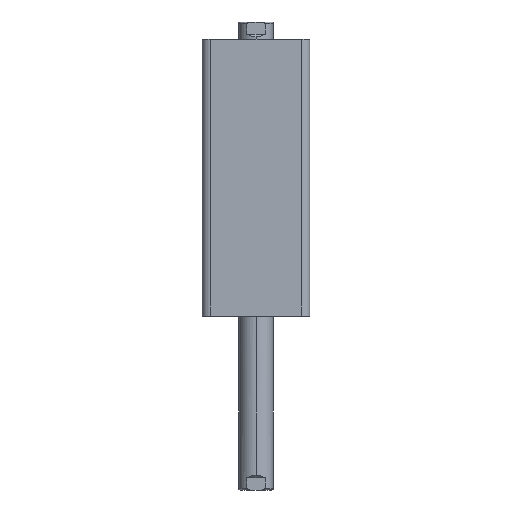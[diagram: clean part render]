
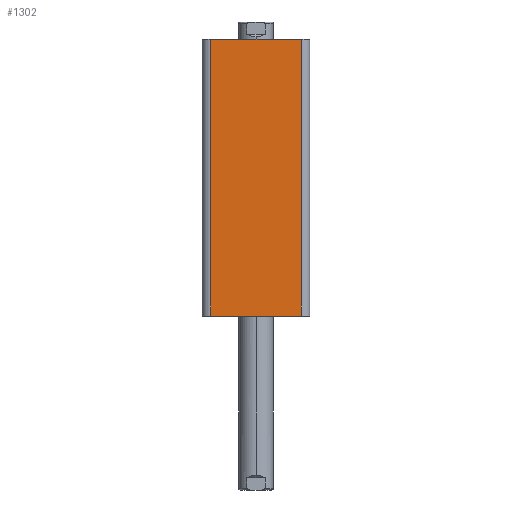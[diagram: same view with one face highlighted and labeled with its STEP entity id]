
A CAD part, left-side view. The second image highlights one B-rep face of the part: STEP entity #1302.
In plain terms, the highlighted planar face has unit normal (-1, 0, 0).
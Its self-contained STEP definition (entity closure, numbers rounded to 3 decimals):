
#455 = CARTESIAN_POINT ( 'NONE',  ( -31., 31., 159. ) ) ;
#461 = CARTESIAN_POINT ( 'NONE',  ( -31., 26., 159. ) ) ;
#463 = DIRECTION ( 'NONE',  ( 0., 0., -1. ) ) ;
#464 = DIRECTION ( 'NONE',  ( 0., -1., 0. ) ) ;
#465 = CARTESIAN_POINT ( 'NONE',  ( -31., -26., 159. ) ) ;
#466 = DIRECTION ( 'NONE',  ( 0., 0., 1. ) ) ;
#467 = CARTESIAN_POINT ( 'NONE',  ( -31., 31., 0. ) ) ;
#468 = DIRECTION ( 'NONE',  ( 0., -1., 0. ) ) ;
#803 = EDGE_CURVE ( 'NONE', #2228, #2257, #1740, .T. ) ;
#804 = EDGE_CURVE ( 'NONE', #2228, #2236, #1736, .T. ) ;
#805 = EDGE_CURVE ( 'NONE', #2260, #2236, #1744, .T. ) ;
#806 = EDGE_CURVE ( 'NONE', #2257, #2260, #1746, .T. ) ;
#981 = AXIS2_PLACEMENT_3D ( 'NONE', #2414, #2419, #2420 ) ;
#1279 = ORIENTED_EDGE ( 'NONE', *, *, #804, .F. ) ;
#1280 = ORIENTED_EDGE ( 'NONE', *, *, #803, .T. ) ;
#1302 = ADVANCED_FACE ( 'NONE', ( #1823 ), #2417, .F. ) ;
#1465 = ORIENTED_EDGE ( 'NONE', *, *, #806, .T. ) ;
#1466 = ORIENTED_EDGE ( 'NONE', *, *, #805, .T. ) ;
#1503 = EDGE_LOOP ( 'NONE', ( #1465, #1466, #1279, #1280 ) ) ;
#1736 = LINE ( 'NONE', #455, #1745 ) ;
#1740 = LINE ( 'NONE', #461, #1743 ) ;
#1743 = VECTOR ( 'NONE', #463, 1000. ) ;
#1744 = LINE ( 'NONE', #465, #1747 ) ;
#1745 = VECTOR ( 'NONE', #464, 1000. ) ;
#1746 = LINE ( 'NONE', #467, #1749 ) ;
#1747 = VECTOR ( 'NONE', #466, 1000. ) ;
#1749 = VECTOR ( 'NONE', #468, 1000. ) ;
#1823 = FACE_OUTER_BOUND ( 'NONE', #1503, .T. ) ;
#2228 = VERTEX_POINT ( 'NONE', #2773 ) ;
#2236 = VERTEX_POINT ( 'NONE', #2781 ) ;
#2257 = VERTEX_POINT ( 'NONE', #2802 ) ;
#2260 = VERTEX_POINT ( 'NONE', #2805 ) ;
#2414 = CARTESIAN_POINT ( 'NONE',  ( -31., 31., 159. ) ) ;
#2417 = PLANE ( 'NONE',  #981 ) ;
#2419 = DIRECTION ( 'NONE',  ( 1., 0., 0. ) ) ;
#2420 = DIRECTION ( 'NONE',  ( 0., 1., 0. ) ) ;
#2773 = CARTESIAN_POINT ( 'NONE',  ( -31., 26., 159. ) ) ;
#2781 = CARTESIAN_POINT ( 'NONE',  ( -31., -26., 159. ) ) ;
#2802 = CARTESIAN_POINT ( 'NONE',  ( -31., 26., 0. ) ) ;
#2805 = CARTESIAN_POINT ( 'NONE',  ( -31., -26., 0. ) ) ;
